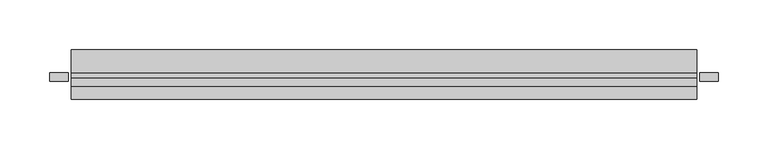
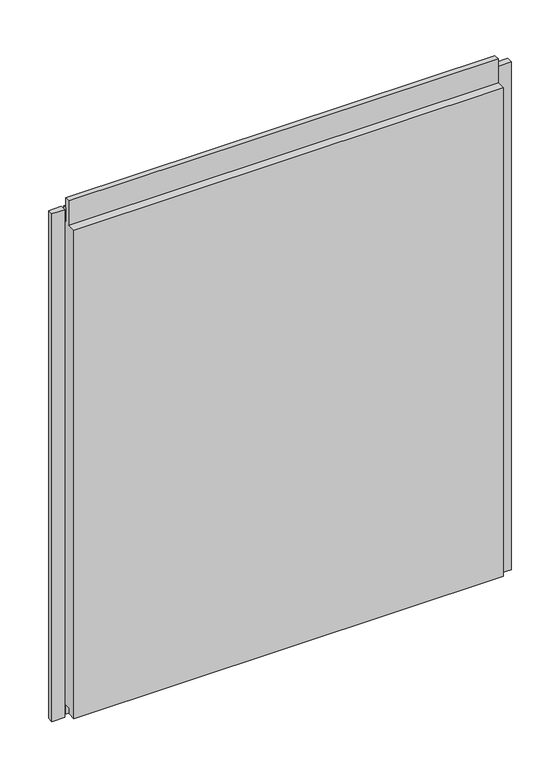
"""IFC4 building model written with IfcOpenShell, lengths in millimetres: plate geometry, Trimo_Qbiss Screen_Normal Panel-HORIZONTAL : HR - B."""

import ifcopenshell
import ifcopenshell.guid

model = None  # the IFC model being written
_history = None  # IfcOwnerHistory: only IFC2X3 demands one
_inside = {}  # id of a spatial element -> (the spatial element, [elements in it])
_under = {}  # id of a project, library or spatial element -> (it, [spatial elements below it])
_declared = {}  # id of a project -> (the project, [libraries it declares])
_typed = {}  # id of a type object -> (the type object, [elements of that type])
_made_of = {}  # id of a material, layer set ... -> (it, [elements and type objects made of it])


def new_model(schema):
    """Start an empty IFC model of exactly this schema.

    Asked for "IFC4X3", IfcOpenShell would pick the latest addendum, in which some entities
    have other attributes; the version numbers below select the first issue.
    IFC2X3 requires an IfcOwnerHistory on every rooted entity: one is made here for all.
    """
    global model, _history
    if schema == "IFC4X3":
        model = ifcopenshell.file(schema_version=(4, 3, 0, 0))
    else:
        model = ifcopenshell.file(schema=schema)
    _inside.clear()
    _under.clear()
    _declared.clear()
    _typed.clear()
    _made_of.clear()
    _history = None
    if model.schema == "IFC2X3":
        org = make("IfcOrganization", Name="unknown")
        user = make(
            "IfcPersonAndOrganization",
            ThePerson=make("IfcPerson", FamilyName="unknown"),
            TheOrganization=org,
        )
        app = make(
            "IfcApplication",
            ApplicationDeveloper=org,
            Version="unknown",
            ApplicationFullName="unknown",
            ApplicationIdentifier="unknown",
        )
        _history = make(
            "IfcOwnerHistory",
            OwningUser=user,
            OwningApplication=app,
            ChangeAction="ADDED",
            CreationDate=0,
        )
    return model


def make(cls, **values):
    """One entity of the class cls with the attributes given. An attribute that is None is left unset."""
    return model.create_entity(
        cls, **{name: value for name, value in values.items() if value is not None}
    )


def rooted(cls, **values):
    """An entity with a GlobalId (a new one), such as an element, a storey or a relation."""
    return make(cls, GlobalId=ifcopenshell.guid.new(), OwnerHistory=_history, **values)


def si_unit(unit_type, name, prefix=None):
    """IfcSIUnit, for example si_unit("LENGTHUNIT", "METRE", prefix="MILLI")."""
    return make("IfcSIUnit", UnitType=unit_type, Prefix=prefix, Name=name)


def assignment(units):
    """IfcUnitAssignment: the units of a project."""
    return None if units is None else make("IfcUnitAssignment", Units=units)


def point(xyz):
    """IfcCartesianPoint."""
    return None if xyz is None else make("IfcCartesianPoint", Coordinates=xyz)


def direction(xyz):
    """IfcDirection."""
    return None if xyz is None else make("IfcDirection", DirectionRatios=xyz)


def frame(location, z_axis=None, x_axis=None):
    """IfcAxis2Placement3D, a coordinate frame: its origin and axes. An axis left out is left unset."""
    return make(
        "IfcAxis2Placement3D",
        Location=point(location),
        Axis=direction(z_axis),
        RefDirection=direction(x_axis),
    )


def origin():
    """The frame at (0, 0, 0) with its axes left unset."""
    return frame((0.0, 0.0, 0.0))


def place(relative_to, where):
    """IfcLocalPlacement: puts the frame where relative to a parent placement (None: the world)."""
    return make(
        "IfcLocalPlacement", PlacementRelTo=relative_to, RelativePlacement=where
    )


def context(
    kind, dimensions, precision=None, world=None, true_north=None, identifier=None
):
    """IfcGeometricRepresentationContext, for example the 3D "Model" context."""
    return make(
        "IfcGeometricRepresentationContext",
        ContextIdentifier=identifier,
        ContextType=kind,
        CoordinateSpaceDimension=dimensions,
        Precision=precision,
        WorldCoordinateSystem=world,
        TrueNorth=true_north,
    )


def project(units=None, contexts=None):
    """IfcProject with its units and contexts."""
    return rooted(
        "IfcProject",
        Name="project",
        RepresentationContexts=contexts,
        UnitsInContext=assignment(units),
    )


def spatial(cls, under=None, at=None, **own):
    """A site, building, storey or space (cls), placed at a placement, below another one or the project."""
    s = rooted(cls, ObjectPlacement=at, **own)
    if under is not None:
        _under.setdefault(under.id(), (under, []))[1].append(s)
    return s


def polyline(points):
    """IfcPolyline through the points."""
    return make("IfcPolyline", Points=[point(p) for p in points])


def outline(outer, holes=None, kind="AREA"):
    """IfcArbitraryClosedProfileDef: a profile drawn as a closed curve; with holes, ...WithVoids."""
    if holes is None:
        return make("IfcArbitraryClosedProfileDef", ProfileType=kind, OuterCurve=outer)
    return make(
        "IfcArbitraryProfileDefWithVoids",
        ProfileType=kind,
        OuterCurve=outer,
        InnerCurves=holes,
    )


def extrude(swept, where, along, depth):
    """IfcExtrudedAreaSolid: the profile swept, set in the frame where, extruded along a direction by depth."""
    return make(
        "IfcExtrudedAreaSolid",
        SweptArea=swept,
        Position=where,
        ExtrudedDirection=direction(along),
        Depth=depth,
    )


def shape(context_of_items, identifier, shape_type, items):
    """IfcShapeRepresentation: the items that make up one representation, for example the "Body"."""
    return make(
        "IfcShapeRepresentation",
        ContextOfItems=context_of_items,
        RepresentationIdentifier=identifier,
        RepresentationType=shape_type,
        Items=items,
    )


def source(mapping_origin, context_of_items, identifier, shape_type, items):
    """IfcRepresentationMap: a shape defined once, which mapped items show again and again."""
    return make(
        "IfcRepresentationMap",
        MappingOrigin=mapping_origin,
        MappedRepresentation=shape(context_of_items, identifier, shape_type, items),
    )


def transform(
    local_origin,
    x_axis=None,
    y_axis=None,
    z_axis=None,
    scale=None,
    scale2=None,
    scale3=None,
    uniform=True,
):
    """IfcCartesianTransformationOperator3D, or its non-uniform kind. x_axis, y_axis, z_axis: its Axis1, 2, 3."""
    if uniform:
        return make(
            "IfcCartesianTransformationOperator3D",
            Axis1=direction(x_axis),
            Axis2=direction(y_axis),
            LocalOrigin=point(local_origin),
            Scale=scale,
            Axis3=direction(z_axis),
        )
    return make(
        "IfcCartesianTransformationOperator3DnonUniform",
        Axis1=direction(x_axis),
        Axis2=direction(y_axis),
        LocalOrigin=point(local_origin),
        Scale=scale,
        Axis3=direction(z_axis),
        Scale2=scale2,
        Scale3=scale3,
    )


def mapped(mapping_source, mapping_target):
    """IfcMappedItem: shows the shape of a source again, moved by a transform."""
    return make(
        "IfcMappedItem", MappingSource=mapping_source, MappingTarget=mapping_target
    )


def made_of(thing, what):
    """Note that an element or type object is made of a material, layer set ...; save() writes the relation."""
    if what is not None:
        _made_of.setdefault(what.id(), (what, []))[1].append(thing)
    return thing


def element(
    cls,
    number,
    at=None,
    inside=None,
    cuts=None,
    type_object=None,
    material=None,
    context=None,
    identifier="Body",
    shape_type=None,
    held_by="IfcProductDefinitionShape",
    body=None,
    shapes=None,
    **own,
):
    """One element of the class cls, such as IfcWall. Its Tag is "e" and its number.

    at: its placement. inside: the storey or other place that contains it. cuts: it is an
    opening in that element (IfcRelVoidsElement). A single representation is given by context,
    identifier, shape_type and body (its items); several are given by shapes. held_by: the class
    of the entity that holds the representations. save() writes the other relations.
    """
    e = rooted(cls, Tag="e%d" % number, ObjectPlacement=at, **own)
    if body is not None:
        shapes = [shape(context, identifier, shape_type, body)]
    if shapes is not None:
        e.Representation = make(held_by, Representations=shapes)
    if inside is not None:
        _inside.setdefault(inside.id(), (inside, []))[1].append(e)
    if cuts is not None:
        rooted(
            "IfcRelVoidsElement", RelatingBuildingElement=cuts, RelatedOpeningElement=e
        )
    if type_object is not None:
        _typed.setdefault(type_object.id(), (type_object, []))[1].append(e)
    return made_of(e, material)


def aggregate(whole, parts):
    """IfcRelAggregates: a whole, such as a stair, and the parts it consists of."""
    return rooted("IfcRelAggregates", RelatingObject=whole, RelatedObjects=parts)


def save(model, path):
    """Write the relations noted so far, then the file.

    IfcRelAggregates (storeys below a building ...), IfcRelContainedInSpatialStructure (elements
    in a storey), IfcRelDefinesByType, IfcRelAssociatesMaterial and IfcRelDeclares: one each for
    every whole, place, type object, material and project.
    """
    for whole, parts in _under.values():
        aggregate(whole, parts)
    for where, things in _inside.values():
        rooted(
            "IfcRelContainedInSpatialStructure",
            RelatedElements=things,
            RelatingStructure=where,
        )
    for kind, things in _typed.values():
        rooted("IfcRelDefinesByType", RelatedObjects=things, RelatingType=kind)
    for what, things in _made_of.values():
        rooted("IfcRelAssociatesMaterial", RelatedObjects=things, RelatingMaterial=what)
    for by, libraries in _declared.values():
        rooted("IfcRelDeclares", RelatingContext=by, RelatedDefinitions=libraries)
    model.write(path)


def plate_297fb12d(model_context):
    return source(origin(), model_context, "Body", "SweptSolid", [
        extrude(outline(polyline([(-318.0, 76.5978162), (-318.0, 67.8978162), (-337.0, 67.8978162), (-337.0, 76.5978162), (-318.0, 76.5978162)])), frame((0.0, 0.0, -1.0), z_axis=(0.0, 0.0, 1.0), x_axis=(1.0, 0.0, 0.0)), (0.0, 0.0, 1.0), 787.95),
        extrude(outline(polyline([(318.0, 67.8978162), (318.0, 76.5978162), (337.0, 76.5978162), (337.0, 67.8978162), (318.0, 67.8978162)])), frame((0.0, 0.0, -1.0), z_axis=(0.0, 0.0, 1.0), x_axis=(1.0, 0.0, 0.0)), (0.0, 0.0, 1.0), 787.95),
        extrude(outline(polyline([(315.0, 76.0), (315.0, 71.0), (-315.0, 71.0), (-315.0, 76.0), (315.0, 76.0)])), frame((0.0, 0.0, 765.95), z_axis=(0.0, 0.0, 1.0), x_axis=(1.0, 0.0, 0.0)), (0.0, 0.0, 1.0), 21.0),
        extrude(outline(polyline([(71.0, 764.95), (100.0, 764.95), (100.0, 0.0), (72.0, 0.0), (72.0, 15.5), (62.0, 15.5), (62.0, 7.0), (50.0, 7.0), (50.0, 764.95), (63.0, 764.95), (63.0, 802.45), (71.0, 802.45), (71.0, 764.95)])), frame((-315.0, 0.0, 0.0), z_axis=(1.0, 0.0, 0.0), x_axis=(0.0, 1.0, 0.0)), (0.0, 0.0, 1.0), 630.0),
    ])


if __name__ == "__main__":
    model = new_model("IFC4")
    model_context = context("Model", 3, world=origin())
    ifc_project = project(units=[si_unit("LENGTHUNIT", "METRE", prefix="MILLI")], contexts=[model_context])
    site = spatial("IfcSite", under=ifc_project)
    building = spatial("IfcBuilding", under=site)
    placement = place(None, origin())
    plate_shape = plate_297fb12d(model_context)
    element("IfcPlate", 1, ObjectType="Trimo_Qbiss Screen_Normal Panel-HORIZONTAL : HR - B", at=placement, inside=building, context=model_context, shape_type="MappedRepresentation", body=[
        mapped(plate_shape, transform((0.0, 0.0, 0.0), x_axis=(1.0, 0.0, 0.0), y_axis=(0.0, 1.0, 0.0), z_axis=(0.0, 0.0, 1.0))),
    ])
    save(model, "model.ifc")
